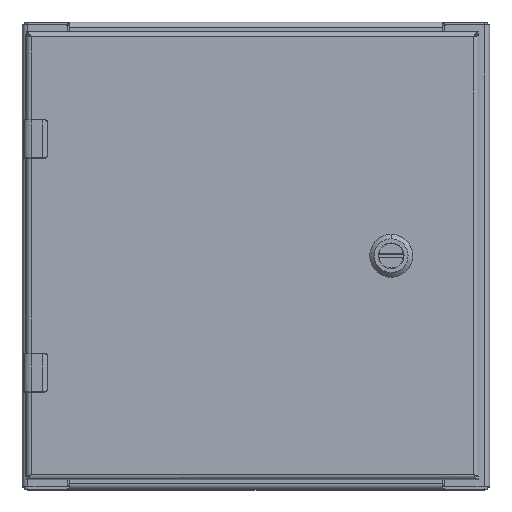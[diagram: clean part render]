
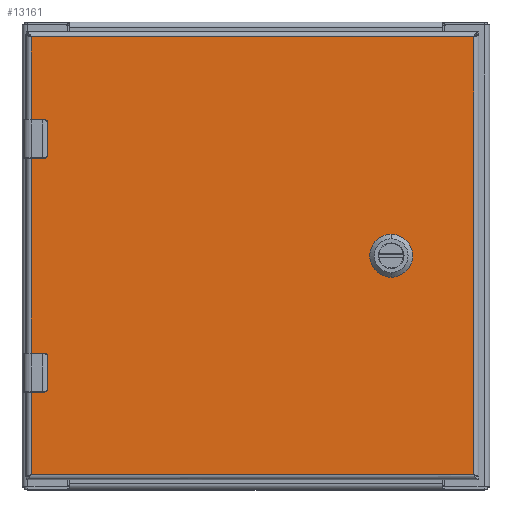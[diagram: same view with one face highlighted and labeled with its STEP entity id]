
A CAD part, top view. The second image highlights one B-rep face of the part: STEP entity #13161.
In plain terms, the highlighted planar face has unit normal (0, 0, 1).
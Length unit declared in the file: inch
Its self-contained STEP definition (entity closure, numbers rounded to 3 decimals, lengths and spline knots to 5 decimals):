
#10364=CARTESIAN_POINT('',(3.5625,0.,0.));
#10365=DIRECTION('',(0.,0.,1.));
#10366=DIRECTION('',(-0.448,0.894,0.));
#10367=AXIS2_PLACEMENT_3D('',#10364,#10365,#10366);
#10372=DIRECTION('',(0.,-1.,0.));
#10373=VECTOR('',#10372,0.39715);
#10374=CARTESIAN_POINT('',(3.1665,0.19858,0.));
#10375=LINE('',#10374,#10373);
#10379=CARTESIAN_POINT('',(3.5625,0.,0.));
#10380=DIRECTION('',(0.,0.,1.));
#10381=DIRECTION('',(-0.894,-0.448,0.));
#10382=AXIS2_PLACEMENT_3D('',#10379,#10380,#10381);
#10387=DIRECTION('',(1.,0.,0.));
#10388=VECTOR('',#10387,0.39715);
#10389=CARTESIAN_POINT('',(3.36392,-0.396,0.));
#10390=LINE('',#10389,#10388);
#10394=CARTESIAN_POINT('',(3.5625,0.,0.));
#10395=DIRECTION('',(0.,0.,1.));
#10396=DIRECTION('',(0.448,-0.894,0.));
#10397=AXIS2_PLACEMENT_3D('',#10394,#10395,#10396);
#10402=DIRECTION('',(0.,1.,0.));
#10403=VECTOR('',#10402,0.39715);
#10404=CARTESIAN_POINT('',(3.9585,-0.19858,0.));
#10405=LINE('',#10404,#10403);
#10409=CARTESIAN_POINT('',(3.5625,0.,0.));
#10410=DIRECTION('',(0.,0.,1.));
#10411=DIRECTION('',(0.894,0.448,0.));
#10412=AXIS2_PLACEMENT_3D('',#10409,#10410,#10411);
#10417=DIRECTION('',(-1.,0.,0.));
#10418=VECTOR('',#10417,0.39715);
#10419=CARTESIAN_POINT('',(3.76108,0.396,0.));
#10420=LINE('',#10419,#10418);
#10424=DIRECTION('',(1.,0.,0.));
#10425=VECTOR('',#10424,0.34892);
#10426=CARTESIAN_POINT('',(-5.6775,-3.345,0.));
#10427=LINE('',#10426,#10425);
#10431=DIRECTION('',(0.,1.,0.));
#10432=VECTOR('',#10431,0.63);
#10433=CARTESIAN_POINT('',(-5.29858,-3.315,0.));
#10434=LINE('',#10433,#10432);
#10438=DIRECTION('',(1.,0.,0.));
#10439=VECTOR('',#10438,0.34892);
#10440=CARTESIAN_POINT('',(-5.6775,-2.655,0.));
#10441=LINE('',#10440,#10439);
#10445=DIRECTION('',(1.,0.,0.));
#10446=VECTOR('',#10445,0.34892);
#10447=CARTESIAN_POINT('',(-5.6775,2.655,0.));
#10448=LINE('',#10447,#10446);
#10452=DIRECTION('',(0.,1.,0.));
#10453=VECTOR('',#10452,0.63);
#10454=CARTESIAN_POINT('',(-5.29858,2.685,0.));
#10455=LINE('',#10454,#10453);
#10459=DIRECTION('',(1.,0.,0.));
#10460=VECTOR('',#10459,0.34892);
#10461=CARTESIAN_POINT('',(-5.6775,3.345,0.));
#10462=LINE('',#10461,#10460);
#10925=CARTESIAN_POINT('',(-5.32858,-2.685,0.));
#10926=DIRECTION('',(0.,0.,-1.));
#10927=DIRECTION('',(0.,1.,0.));
#10928=AXIS2_PLACEMENT_3D('',#10925,#10926,#10927);
#10955=CARTESIAN_POINT('',(-5.32858,-3.315,0.));
#10956=DIRECTION('',(0.,0.,-1.));
#10957=DIRECTION('',(1.,0.,0.));
#10958=AXIS2_PLACEMENT_3D('',#10955,#10956,#10957);
#11008=DIRECTION('',(0.,1.,0.));
#11009=VECTOR('',#11008,5.31);
#11010=CARTESIAN_POINT('',(-5.6775,-2.655,0.));
#11011=LINE('',#11010,#11009);
#11038=DIRECTION('',(0.,1.,0.));
#11039=VECTOR('',#11038,2.27);
#11040=CARTESIAN_POINT('',(-5.6775,3.345,0.));
#11041=LINE('',#11040,#11039);
#11098=DIRECTION('',(0.,1.,0.));
#11099=VECTOR('',#11098,2.27);
#11100=CARTESIAN_POINT('',(-5.6775,-5.615,0.));
#11101=LINE('',#11100,#11099);
#11761=CARTESIAN_POINT('',(-5.32858,2.685,0.));
#11762=DIRECTION('',(0.,0.,-1.));
#11763=DIRECTION('',(1.,0.,0.));
#11764=AXIS2_PLACEMENT_3D('',#11761,#11762,#11763);
#11791=CARTESIAN_POINT('',(-5.32858,3.315,0.));
#11792=DIRECTION('',(0.,0.,-1.));
#11793=DIRECTION('',(0.,1.,0.));
#11794=AXIS2_PLACEMENT_3D('',#11791,#11792,#11793);
#12460=DIRECTION('',(-1.,0.,0.));
#12461=VECTOR('',#12460,11.355);
#12462=CARTESIAN_POINT('',(5.6775,-5.615,0.));
#12463=LINE('',#12462,#12461);
#12518=DIRECTION('',(0.,-1.,0.));
#12519=VECTOR('',#12518,11.23);
#12520=CARTESIAN_POINT('',(5.6775,5.615,0.));
#12521=LINE('',#12520,#12519);
#12664=DIRECTION('',(1.,0.,0.));
#12665=VECTOR('',#12664,11.355);
#12666=CARTESIAN_POINT('',(-5.6775,5.615,0.));
#12667=LINE('',#12666,#12665);
#12736=CARTESIAN_POINT('',(5.6775,5.615,0.));
#12737=CARTESIAN_POINT('',(5.6775,-5.615,0.));
#12738=VERTEX_POINT('',#12736);
#12739=VERTEX_POINT('',#12737);
#12824=CARTESIAN_POINT('',(3.36392,0.396,0.));
#12825=CARTESIAN_POINT('',(3.1665,0.19858,0.));
#12826=VERTEX_POINT('',#12824);
#12827=VERTEX_POINT('',#12825);
#12828=CARTESIAN_POINT('',(3.1665,-0.19858,0.));
#12829=VERTEX_POINT('',#12828);
#12830=CARTESIAN_POINT('',(3.36392,-0.396,0.));
#12831=VERTEX_POINT('',#12830);
#12832=CARTESIAN_POINT('',(3.76108,-0.396,0.));
#12833=VERTEX_POINT('',#12832);
#12834=CARTESIAN_POINT('',(3.9585,-0.19858,0.));
#12835=VERTEX_POINT('',#12834);
#12836=CARTESIAN_POINT('',(3.9585,0.19858,0.));
#12837=VERTEX_POINT('',#12836);
#12838=CARTESIAN_POINT('',(3.76108,0.396,0.));
#12839=VERTEX_POINT('',#12838);
#12929=CARTESIAN_POINT('',(-5.6775,5.615,0.));
#12931=VERTEX_POINT('',#12929);
#12936=CARTESIAN_POINT('',(-5.6775,-5.615,0.));
#12938=VERTEX_POINT('',#12936);
#13008=CARTESIAN_POINT('',(-5.6775,2.655,0.));
#13010=VERTEX_POINT('',#13008);
#13012=CARTESIAN_POINT('',(-5.6775,3.345,0.));
#13014=VERTEX_POINT('',#13012);
#13024=CARTESIAN_POINT('',(-5.6775,-3.345,0.));
#13026=VERTEX_POINT('',#13024);
#13028=CARTESIAN_POINT('',(-5.6775,-2.655,0.));
#13030=VERTEX_POINT('',#13028);
#13040=CARTESIAN_POINT('',(-5.32858,3.345,0.));
#13042=VERTEX_POINT('',#13040);
#13044=CARTESIAN_POINT('',(-5.29858,3.315,0.));
#13046=VERTEX_POINT('',#13044);
#13048=CARTESIAN_POINT('',(-5.29858,2.685,0.));
#13050=VERTEX_POINT('',#13048);
#13052=CARTESIAN_POINT('',(-5.32858,2.655,0.));
#13054=VERTEX_POINT('',#13052);
#13072=CARTESIAN_POINT('',(-5.32858,-2.655,0.));
#13074=VERTEX_POINT('',#13072);
#13076=CARTESIAN_POINT('',(-5.29858,-2.685,0.));
#13078=VERTEX_POINT('',#13076);
#13080=CARTESIAN_POINT('',(-5.29858,-3.315,0.));
#13082=VERTEX_POINT('',#13080);
#13084=CARTESIAN_POINT('',(-5.32858,-3.345,0.));
#13086=VERTEX_POINT('',#13084);
#13104=CARTESIAN_POINT('',(0.,0.,0.));
#13105=DIRECTION('',(0.,0.,-1.));
#13106=DIRECTION('',(1.,0.,0.));
#13107=AXIS2_PLACEMENT_3D('',#13104,#13105,#13106);
#13108=PLANE('',#13107);
#13110=ORIENTED_EDGE('',*,*,#13109,.T.);
#13112=ORIENTED_EDGE('',*,*,#13111,.T.);
#13114=ORIENTED_EDGE('',*,*,#13113,.T.);
#13116=ORIENTED_EDGE('',*,*,#13115,.F.);
#13118=ORIENTED_EDGE('',*,*,#13117,.T.);
#13120=ORIENTED_EDGE('',*,*,#13119,.F.);
#13122=ORIENTED_EDGE('',*,*,#13121,.F.);
#13124=ORIENTED_EDGE('',*,*,#13123,.T.);
#13126=ORIENTED_EDGE('',*,*,#13125,.T.);
#13128=ORIENTED_EDGE('',*,*,#13127,.F.);
#13130=ORIENTED_EDGE('',*,*,#13129,.T.);
#13132=ORIENTED_EDGE('',*,*,#13131,.F.);
#13134=ORIENTED_EDGE('',*,*,#13133,.F.);
#13136=ORIENTED_EDGE('',*,*,#13135,.T.);
#13138=ORIENTED_EDGE('',*,*,#13137,.T.);
#13140=ORIENTED_EDGE('',*,*,#13139,.T.);
#13141=EDGE_LOOP('',(#13110,#13112,#13114,#13116,#13118,#13120,#13122,#13124,
#13126,#13128,#13130,#13132,#13134,#13136,#13138,#13140));
#13142=FACE_OUTER_BOUND('',#13141,.F.);
#13144=ORIENTED_EDGE('',*,*,#13143,.T.);
#13146=ORIENTED_EDGE('',*,*,#13145,.T.);
#13148=ORIENTED_EDGE('',*,*,#13147,.T.);
#13150=ORIENTED_EDGE('',*,*,#13149,.T.);
#13152=ORIENTED_EDGE('',*,*,#13151,.T.);
#13154=ORIENTED_EDGE('',*,*,#13153,.T.);
#13156=ORIENTED_EDGE('',*,*,#13155,.T.);
#13158=ORIENTED_EDGE('',*,*,#13157,.T.);
#13159=EDGE_LOOP('',(#13144,#13146,#13148,#13150,#13152,#13154,#13156,#13158));
#13160=FACE_BOUND('',#13159,.F.);
#10368=CIRCLE('',#10367,0.443);
#10383=CIRCLE('',#10382,0.443);
#10398=CIRCLE('',#10397,0.443);
#10413=CIRCLE('',#10412,0.443);
#10929=CIRCLE('',#10928,0.03);
#10959=CIRCLE('',#10958,0.03);
#11765=CIRCLE('',#11764,0.03);
#11795=CIRCLE('',#11794,0.03);
#13109=EDGE_CURVE('',#12739,#12938,#12463,.T.);
#13111=EDGE_CURVE('',#12938,#13026,#11101,.T.);
#13113=EDGE_CURVE('',#13026,#13086,#10427,.T.);
#13115=EDGE_CURVE('',#13082,#13086,#10959,.T.);
#13117=EDGE_CURVE('',#13082,#13078,#10434,.T.);
#13119=EDGE_CURVE('',#13074,#13078,#10929,.T.);
#13121=EDGE_CURVE('',#13030,#13074,#10441,.T.);
#13123=EDGE_CURVE('',#13030,#13010,#11011,.T.);
#13125=EDGE_CURVE('',#13010,#13054,#10448,.T.);
#13127=EDGE_CURVE('',#13050,#13054,#11765,.T.);
#13129=EDGE_CURVE('',#13050,#13046,#10455,.T.);
#13131=EDGE_CURVE('',#13042,#13046,#11795,.T.);
#13133=EDGE_CURVE('',#13014,#13042,#10462,.T.);
#13135=EDGE_CURVE('',#13014,#12931,#11041,.T.);
#13137=EDGE_CURVE('',#12931,#12738,#12667,.T.);
#13139=EDGE_CURVE('',#12738,#12739,#12521,.T.);
#13143=EDGE_CURVE('',#12826,#12827,#10368,.T.);
#13145=EDGE_CURVE('',#12827,#12829,#10375,.T.);
#13147=EDGE_CURVE('',#12829,#12831,#10383,.T.);
#13149=EDGE_CURVE('',#12831,#12833,#10390,.T.);
#13151=EDGE_CURVE('',#12833,#12835,#10398,.T.);
#13153=EDGE_CURVE('',#12835,#12837,#10405,.T.);
#13155=EDGE_CURVE('',#12837,#12839,#10413,.T.);
#13157=EDGE_CURVE('',#12839,#12826,#10420,.T.);
#13161=ADVANCED_FACE('',(#13142,#13160),#13108,.F.);
